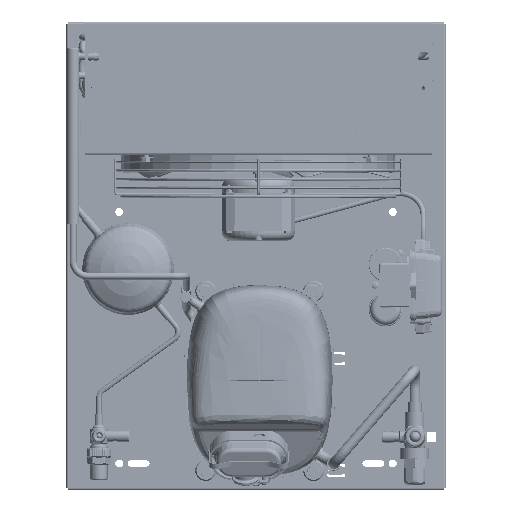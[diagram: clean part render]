
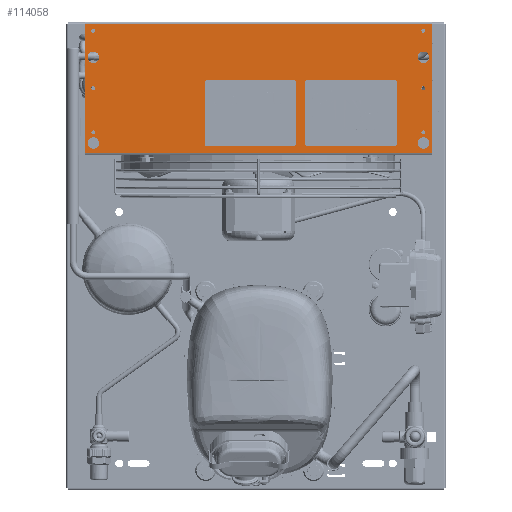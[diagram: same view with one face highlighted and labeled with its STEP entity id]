
A CAD part, top view. The second image highlights one B-rep face of the part: STEP entity #114058.
In plain terms, the highlighted planar face has unit normal (0, 0, 1).
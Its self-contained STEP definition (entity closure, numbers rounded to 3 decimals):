
#5483=CIRCLE('',#157213,6.5);
#5485=CIRCLE('',#157216,6.5);
#5487=CIRCLE('',#157219,6.5);
#5489=CIRCLE('',#157222,6.5);
#5515=CIRCLE('',#157267,2.25);
#5517=CIRCLE('',#157270,2.25);
#5519=CIRCLE('',#157273,2.25);
#5521=CIRCLE('',#157276,2.25);
#5523=CIRCLE('',#157279,2.25);
#5525=CIRCLE('',#157282,2.25);
#12448=ORIENTED_EDGE('',*,*,#42475,.T.);
#12449=ORIENTED_EDGE('',*,*,#42474,.F.);
#12450=ORIENTED_EDGE('',*,*,#42476,.F.);
#12451=ORIENTED_EDGE('',*,*,#42477,.T.);
#12452=ORIENTED_EDGE('',*,*,#42416,.F.);
#12453=ORIENTED_EDGE('',*,*,#42414,.F.);
#12454=ORIENTED_EDGE('',*,*,#42412,.F.);
#12455=ORIENTED_EDGE('',*,*,#42410,.F.);
#12456=ORIENTED_EDGE('',*,*,#42408,.F.);
#12457=ORIENTED_EDGE('',*,*,#42406,.F.);
#12458=ORIENTED_EDGE('',*,*,#42363,.F.);
#12459=ORIENTED_EDGE('',*,*,#42361,.F.);
#12460=ORIENTED_EDGE('',*,*,#42359,.F.);
#12461=ORIENTED_EDGE('',*,*,#42357,.F.);
#42357=EDGE_CURVE('',#58191,#58191,#5483,.T.);
#42359=EDGE_CURVE('',#58193,#58193,#5485,.T.);
#42361=EDGE_CURVE('',#58195,#58195,#5487,.T.);
#42363=EDGE_CURVE('',#58197,#58197,#5489,.T.);
#42406=EDGE_CURVE('',#58233,#58233,#5515,.T.);
#42408=EDGE_CURVE('',#58235,#58235,#5517,.T.);
#42410=EDGE_CURVE('',#58237,#58237,#5519,.T.);
#42412=EDGE_CURVE('',#58239,#58239,#5521,.T.);
#42414=EDGE_CURVE('',#58241,#58241,#5523,.T.);
#42416=EDGE_CURVE('',#58243,#58243,#5525,.T.);
#42474=EDGE_CURVE('',#58285,#58283,#68846,.T.);
#42475=EDGE_CURVE('',#58286,#58283,#68847,.T.);
#42476=EDGE_CURVE('',#58287,#58285,#68848,.T.);
#42477=EDGE_CURVE('',#58287,#58286,#68849,.T.);
#58191=VERTEX_POINT('',#199288);
#58193=VERTEX_POINT('',#199293);
#58195=VERTEX_POINT('',#199298);
#58197=VERTEX_POINT('',#199303);
#58233=VERTEX_POINT('',#199401);
#58235=VERTEX_POINT('',#199406);
#58237=VERTEX_POINT('',#199411);
#58239=VERTEX_POINT('',#199416);
#58241=VERTEX_POINT('',#199421);
#58243=VERTEX_POINT('',#199426);
#58283=VERTEX_POINT('',#199543);
#58285=VERTEX_POINT('',#199547);
#58286=VERTEX_POINT('',#199551);
#58287=VERTEX_POINT('',#199553);
#68846=LINE('',#199548,#79326);
#68847=LINE('',#199550,#79327);
#68848=LINE('',#199552,#79328);
#68849=LINE('',#199554,#79329);
#79326=VECTOR('',#169812,1000.);
#79327=VECTOR('',#169815,1000.);
#79328=VECTOR('',#169816,1000.);
#79329=VECTOR('',#169817,1000.);
#91157=EDGE_LOOP('',(#12448,#12449,#12450,#12451));
#91158=EDGE_LOOP('',(#12452));
#91159=EDGE_LOOP('',(#12453));
#91160=EDGE_LOOP('',(#12454));
#91161=EDGE_LOOP('',(#12455));
#91162=EDGE_LOOP('',(#12456));
#91163=EDGE_LOOP('',(#12457));
#91164=EDGE_LOOP('',(#12458));
#91165=EDGE_LOOP('',(#12459));
#91166=EDGE_LOOP('',(#12460));
#91167=EDGE_LOOP('',(#12461));
#101000=FACE_BOUND('',#91157,.T.);
#101001=FACE_BOUND('',#91158,.T.);
#101002=FACE_BOUND('',#91159,.T.);
#101003=FACE_BOUND('',#91160,.T.);
#101004=FACE_BOUND('',#91161,.T.);
#101005=FACE_BOUND('',#91162,.T.);
#101006=FACE_BOUND('',#91163,.T.);
#101007=FACE_BOUND('',#91164,.T.);
#101008=FACE_BOUND('',#91165,.T.);
#101009=FACE_BOUND('',#91166,.T.);
#101010=FACE_BOUND('',#91167,.T.);
#109156=PLANE('',#157313);
#114058=ADVANCED_FACE('',(#101000,#101001,#101002,#101003,#101004,#101005,
#101006,#101007,#101008,#101009,#101010),#109156,.F.);
#157213=AXIS2_PLACEMENT_3D('',#199287,#169546,#169547);
#157216=AXIS2_PLACEMENT_3D('',#199292,#169552,#169553);
#157219=AXIS2_PLACEMENT_3D('',#199297,#169558,#169559);
#157222=AXIS2_PLACEMENT_3D('',#199302,#169564,#169565);
#157267=AXIS2_PLACEMENT_3D('',#199400,#169671,#169672);
#157270=AXIS2_PLACEMENT_3D('',#199405,#169677,#169678);
#157273=AXIS2_PLACEMENT_3D('',#199410,#169683,#169684);
#157276=AXIS2_PLACEMENT_3D('',#199415,#169689,#169690);
#157279=AXIS2_PLACEMENT_3D('',#199420,#169695,#169696);
#157282=AXIS2_PLACEMENT_3D('',#199425,#169701,#169702);
#157313=AXIS2_PLACEMENT_3D('',#199549,#169813,#169814);
#169546=DIRECTION('',(0.,0.,1.));
#169547=DIRECTION('',(-1.,0.,0.));
#169552=DIRECTION('',(0.,0.,1.));
#169553=DIRECTION('',(-1.,0.,0.));
#169558=DIRECTION('',(0.,0.,1.));
#169559=DIRECTION('',(-1.,0.,0.));
#169564=DIRECTION('',(0.,0.,1.));
#169565=DIRECTION('',(-1.,0.,0.));
#169671=DIRECTION('',(0.,0.,1.));
#169672=DIRECTION('',(-1.,0.,0.));
#169677=DIRECTION('',(0.,0.,1.));
#169678=DIRECTION('',(-1.,0.,0.));
#169683=DIRECTION('',(0.,0.,1.));
#169684=DIRECTION('',(-1.,0.,0.));
#169689=DIRECTION('',(0.,0.,1.));
#169690=DIRECTION('',(-1.,0.,0.));
#169695=DIRECTION('',(0.,0.,1.));
#169696=DIRECTION('',(-1.,0.,0.));
#169701=DIRECTION('',(0.,0.,1.));
#169702=DIRECTION('',(-1.,0.,0.));
#169812=DIRECTION('',(1.,0.,0.));
#169813=DIRECTION('',(0.,0.,-1.));
#169814=DIRECTION('',(-1.,0.,0.));
#169815=DIRECTION('',(0.,1.,0.));
#169816=DIRECTION('',(0.,1.,0.));
#169817=DIRECTION('',(1.,0.,0.));
#199287=CARTESIAN_POINT('',(-187.,-35.1,0.));
#199288=CARTESIAN_POINT('',(-193.5,-35.1,0.));
#199292=CARTESIAN_POINT('',(187.,-35.1,0.));
#199293=CARTESIAN_POINT('',(180.5,-35.1,0.));
#199297=CARTESIAN_POINT('',(187.,62.1,0.));
#199298=CARTESIAN_POINT('',(180.5,62.1,0.));
#199302=CARTESIAN_POINT('',(-187.,62.1,0.));
#199303=CARTESIAN_POINT('',(-193.5,62.1,0.));
#199400=CARTESIAN_POINT('',(-187.,-65.1,0.));
#199401=CARTESIAN_POINT('',(-189.25,-65.1,0.));
#199405=CARTESIAN_POINT('',(187.,-65.1,0.));
#199406=CARTESIAN_POINT('',(184.75,-65.1,0.));
#199410=CARTESIAN_POINT('',(187.,-0.1,0.));
#199411=CARTESIAN_POINT('',(184.75,-0.1,0.));
#199415=CARTESIAN_POINT('',(-187.,-0.1,0.));
#199416=CARTESIAN_POINT('',(-189.25,-0.1,0.));
#199420=CARTESIAN_POINT('',(-187.,49.9,0.));
#199421=CARTESIAN_POINT('',(-189.25,49.9,0.));
#199425=CARTESIAN_POINT('',(187.,49.9,0.));
#199426=CARTESIAN_POINT('',(184.75,49.9,0.));
#199543=CARTESIAN_POINT('',(197.,73.1,0.));
#199547=CARTESIAN_POINT('',(-197.,73.1,0.));
#199548=CARTESIAN_POINT('',(-197.,73.1,0.));
#199549=CARTESIAN_POINT('',(-197.,-75.1,0.));
#199550=CARTESIAN_POINT('',(197.,-75.1,0.));
#199551=CARTESIAN_POINT('',(197.,-73.1,0.));
#199552=CARTESIAN_POINT('',(-197.,-75.1,0.));
#199553=CARTESIAN_POINT('',(-197.,-73.1,0.));
#199554=CARTESIAN_POINT('',(-197.,-73.1,0.));
